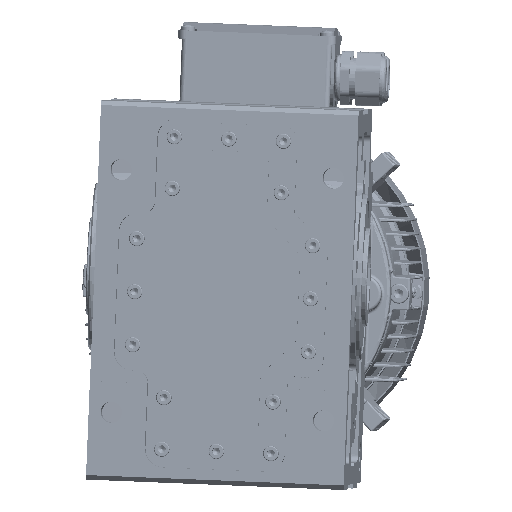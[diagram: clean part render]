
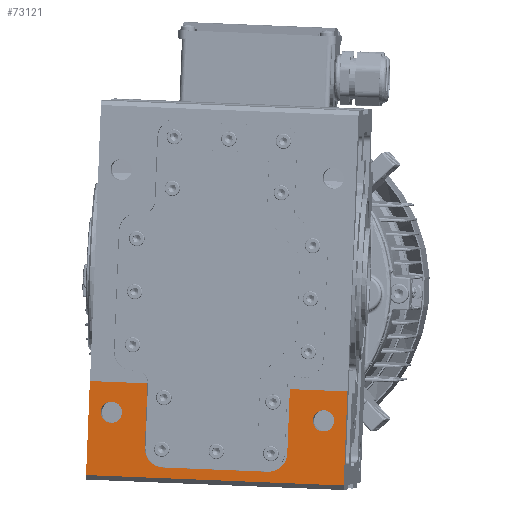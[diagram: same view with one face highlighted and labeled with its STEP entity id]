
A CAD part, top view. The second image highlights one B-rep face of the part: STEP entity #73121.
In plain terms, the highlighted planar face has unit normal (-0.04, -0.008, 0.999) as drawn and (0, 0, 1) by its records, which use the part's own axes.
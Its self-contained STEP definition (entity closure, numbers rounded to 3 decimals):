
#21783 = EDGE_CURVE ( 'NONE', #139077, #139281, #267971, .T. ) ;
#21817 = EDGE_CURVE ( 'NONE', #139043, #139082, #268103, .T. ) ;
#28327 = AXIS2_PLACEMENT_3D ( 'NONE', #32264, #32042, #32047 ) ;
#32042 = DIRECTION ( 'NONE',  ( 0., 0., -1. ) ) ;
#32047 = DIRECTION ( 'NONE',  ( 0., 1., 0. ) ) ;
#32222 = PLANE ( 'NONE',  #28327 ) ;
#32264 = CARTESIAN_POINT ( 'NONE',  ( 85., 110., 90. ) ) ;
#66720 = LINE ( 'NONE', #192619, #67200 ) ;
#67200 = VECTOR ( 'NONE', #192691, 1000. ) ;
#67447 = CIRCLE ( 'NONE', #218986, 12.5 ) ;
#67518 = CIRCLE ( 'NONE', #219100, 12.5 ) ;
#67675 = VECTOR ( 'NONE', #192383, 1000. ) ;
#67808 = LINE ( 'NONE', #192398, #67675 ) ;
#67826 = CIRCLE ( 'NONE', #219064, 7. ) ;
#68564 = LINE ( 'NONE', #192524, #68877 ) ;
#68877 = VECTOR ( 'NONE', #192527, 1000. ) ;
#69350 = LINE ( 'NONE', #242711, #69472 ) ;
#69472 = VECTOR ( 'NONE', #242683, 1000. ) ;
#70164 = CIRCLE ( 'NONE', #219085, 7. ) ;
#70579 = VECTOR ( 'NONE', #82916, 1000. ) ;
#70600 = LINE ( 'NONE', #82911, #70579 ) ;
#70670 = VECTOR ( 'NONE', #83169, 1000. ) ;
#70743 = LINE ( 'NONE', #83080, #70749 ) ;
#70749 = VECTOR ( 'NONE', #82978, 1000. ) ;
#70752 = LINE ( 'NONE', #83144, #70670 ) ;
#70914 = LINE ( 'NONE', #83062, #70926 ) ;
#70926 = VECTOR ( 'NONE', #82994, 1000. ) ;
#73121 = ADVANCED_FACE ( 'NONE', ( #244701, #244683, #244708 ), #32222, .F. ) ;
#82911 = CARTESIAN_POINT ( 'NONE',  ( -85., 110., 90. ) ) ;
#82916 = DIRECTION ( 'NONE',  ( 0., -1., 0. ) ) ;
#82978 = DIRECTION ( 'NONE',  ( 1., 0., 0. ) ) ;
#82994 = DIRECTION ( 'NONE',  ( 1., 0., 0. ) ) ;
#83062 = CARTESIAN_POINT ( 'NONE',  ( 85., -75., 90. ) ) ;
#83080 = CARTESIAN_POINT ( 'NONE',  ( 85., -137., 90. ) ) ;
#83144 = CARTESIAN_POINT ( 'NONE',  ( 85., 0., 90. ) ) ;
#83169 = DIRECTION ( 'NONE',  ( 0., -1., 0. ) ) ;
#139043 = VERTEX_POINT ( 'NONE', #161369 ) ;
#139077 = VERTEX_POINT ( 'NONE', #161374 ) ;
#139082 = VERTEX_POINT ( 'NONE', #161383 ) ;
#139281 = VERTEX_POINT ( 'NONE', #161355 ) ;
#158854 = EDGE_LOOP ( 'NONE', ( #311919, #311926 ) ) ;
#158974 = EDGE_LOOP ( 'NONE', ( #312545, #312300, #312284, #312399, #312401, #312075, #312360, #312431, #312333, #312321 ) ) ;
#159106 = EDGE_LOOP ( 'NONE', ( #312376, #312394 ) ) ;
#161355 = CARTESIAN_POINT ( 'NONE',  ( 77., -95., 90. ) ) ;
#161369 = CARTESIAN_POINT ( 'NONE',  ( -77., -95., 90. ) ) ;
#161374 = CARTESIAN_POINT ( 'NONE',  ( 63., -95., 90. ) ) ;
#161383 = CARTESIAN_POINT ( 'NONE',  ( -63., -95., 90. ) ) ;
#173699 = AXIS2_PLACEMENT_3D ( 'NONE', #284840, #284767, #284845 ) ;
#173923 = AXIS2_PLACEMENT_3D ( 'NONE', #285003, #285046, #285013 ) ;
#183248 = CARTESIAN_POINT ( 'NONE',  ( 85., -75., 90. ) ) ;
#183420 = CARTESIAN_POINT ( 'NONE',  ( 85., -137., 90. ) ) ;
#183479 = CARTESIAN_POINT ( 'NONE',  ( -85., -137., 90. ) ) ;
#183772 = CARTESIAN_POINT ( 'NONE',  ( -85., -75., 90. ) ) ;
#184022 = CARTESIAN_POINT ( 'NONE',  ( 47., -117.5, 90. ) ) ;
#184030 = CARTESIAN_POINT ( 'NONE',  ( -47., -75., 90. ) ) ;
#184050 = CARTESIAN_POINT ( 'NONE',  ( -34.5, -130., 90. ) ) ;
#184058 = CARTESIAN_POINT ( 'NONE',  ( 34.5, -130., 90. ) ) ;
#184092 = CARTESIAN_POINT ( 'NONE',  ( 47., -75., 90. ) ) ;
#184100 = CARTESIAN_POINT ( 'NONE',  ( -47., -117.5, 90. ) ) ;
#192123 = DIRECTION ( 'NONE',  ( 0., 0., 1. ) ) ;
#192134 = CARTESIAN_POINT ( 'NONE',  ( 70., -95., 90. ) ) ;
#192207 = DIRECTION ( 'NONE',  ( 1., 0., 0. ) ) ;
#192329 = DIRECTION ( 'NONE',  ( 1., 0., 0. ) ) ;
#192358 = CARTESIAN_POINT ( 'NONE',  ( 34.5, -117.5, 90. ) ) ;
#192383 = DIRECTION ( 'NONE',  ( 0., -1., 0. ) ) ;
#192388 = DIRECTION ( 'NONE',  ( 0., 0., 1. ) ) ;
#192398 = CARTESIAN_POINT ( 'NONE',  ( -47., 110., 90. ) ) ;
#192524 = CARTESIAN_POINT ( 'NONE',  ( 47., 110., 90. ) ) ;
#192527 = DIRECTION ( 'NONE',  ( 0., 1., 0. ) ) ;
#192539 = CARTESIAN_POINT ( 'NONE',  ( -70., -95., 90. ) ) ;
#192560 = DIRECTION ( 'NONE',  ( 1., 0., 0. ) ) ;
#192585 = DIRECTION ( 'NONE',  ( 0., 0., 1. ) ) ;
#192619 = CARTESIAN_POINT ( 'NONE',  ( 85., -130., 90. ) ) ;
#192691 = DIRECTION ( 'NONE',  ( 1., 0., 0. ) ) ;
#193981 = DIRECTION ( 'NONE',  ( 0., 0., 1. ) ) ;
#193985 = CARTESIAN_POINT ( 'NONE',  ( -34.5, -117.5, 90. ) ) ;
#193987 = DIRECTION ( 'NONE',  ( 1., 0., 0. ) ) ;
#195662 = VERTEX_POINT ( 'NONE', #183248 ) ;
#195855 = VERTEX_POINT ( 'NONE', #183479 ) ;
#195858 = VERTEX_POINT ( 'NONE', #183420 ) ;
#195961 = VERTEX_POINT ( 'NONE', #183772 ) ;
#198421 = VERTEX_POINT ( 'NONE', #184030 ) ;
#198425 = VERTEX_POINT ( 'NONE', #184100 ) ;
#198433 = VERTEX_POINT ( 'NONE', #184092 ) ;
#198440 = VERTEX_POINT ( 'NONE', #184022 ) ;
#198441 = VERTEX_POINT ( 'NONE', #184058 ) ;
#198443 = VERTEX_POINT ( 'NONE', #184050 ) ;
#218986 = AXIS2_PLACEMENT_3D ( 'NONE', #193985, #193981, #193987 ) ;
#219064 = AXIS2_PLACEMENT_3D ( 'NONE', #192134, #192123, #192207 ) ;
#219085 = AXIS2_PLACEMENT_3D ( 'NONE', #192539, #192585, #192560 ) ;
#219100 = AXIS2_PLACEMENT_3D ( 'NONE', #192358, #192388, #192329 ) ;
#242683 = DIRECTION ( 'NONE',  ( 1., 0., 0. ) ) ;
#242711 = CARTESIAN_POINT ( 'NONE',  ( 85., -75., 90. ) ) ;
#244683 = FACE_BOUND ( 'NONE', #159106, .T. ) ;
#244701 = FACE_BOUND ( 'NONE', #158854, .T. ) ;
#244708 = FACE_OUTER_BOUND ( 'NONE', #158974, .T. ) ;
#267971 = CIRCLE ( 'NONE', #173699, 7. ) ;
#268103 = CIRCLE ( 'NONE', #173923, 7. ) ;
#278449 = EDGE_CURVE ( 'NONE', #198433, #195662, #69350, .T. ) ;
#278652 = EDGE_CURVE ( 'NONE', #195961, #195855, #70600, .T. ) ;
#278654 = EDGE_CURVE ( 'NONE', #195855, #195858, #70743, .T. ) ;
#278657 = EDGE_CURVE ( 'NONE', #195662, #195858, #70752, .T. ) ;
#278664 = EDGE_CURVE ( 'NONE', #195961, #198421, #70914, .T. ) ;
#284767 = DIRECTION ( 'NONE',  ( 0., 0., 1. ) ) ;
#284840 = CARTESIAN_POINT ( 'NONE',  ( 70., -95., 90. ) ) ;
#284845 = DIRECTION ( 'NONE',  ( 1., 0., 0. ) ) ;
#285003 = CARTESIAN_POINT ( 'NONE',  ( -70., -95., 90. ) ) ;
#285013 = DIRECTION ( 'NONE',  ( 1., 0., 0. ) ) ;
#285046 = DIRECTION ( 'NONE',  ( 0., 0., 1. ) ) ;
#309535 = EDGE_CURVE ( 'NONE', #198425, #198443, #67447, .T. ) ;
#309619 = EDGE_CURVE ( 'NONE', #139281, #139077, #67826, .T. ) ;
#309642 = EDGE_CURVE ( 'NONE', #198421, #198425, #67808, .T. ) ;
#309651 = EDGE_CURVE ( 'NONE', #198441, #198440, #67518, .T. ) ;
#309696 = EDGE_CURVE ( 'NONE', #139082, #139043, #70164, .T. ) ;
#309724 = EDGE_CURVE ( 'NONE', #198440, #198433, #68564, .T. ) ;
#309735 = EDGE_CURVE ( 'NONE', #198443, #198441, #66720, .T. ) ;
#311919 = ORIENTED_EDGE ( 'NONE', *, *, #309619, .F. ) ;
#311926 = ORIENTED_EDGE ( 'NONE', *, *, #21783, .F. ) ;
#312075 = ORIENTED_EDGE ( 'NONE', *, *, #309535, .F. ) ;
#312284 = ORIENTED_EDGE ( 'NONE', *, *, #309724, .F. ) ;
#312300 = ORIENTED_EDGE ( 'NONE', *, *, #278449, .F. ) ;
#312321 = ORIENTED_EDGE ( 'NONE', *, *, #278654, .T. ) ;
#312333 = ORIENTED_EDGE ( 'NONE', *, *, #278652, .T. ) ;
#312360 = ORIENTED_EDGE ( 'NONE', *, *, #309642, .F. ) ;
#312376 = ORIENTED_EDGE ( 'NONE', *, *, #309696, .F. ) ;
#312394 = ORIENTED_EDGE ( 'NONE', *, *, #21817, .F. ) ;
#312399 = ORIENTED_EDGE ( 'NONE', *, *, #309651, .F. ) ;
#312401 = ORIENTED_EDGE ( 'NONE', *, *, #309735, .F. ) ;
#312431 = ORIENTED_EDGE ( 'NONE', *, *, #278664, .F. ) ;
#312545 = ORIENTED_EDGE ( 'NONE', *, *, #278657, .F. ) ;
